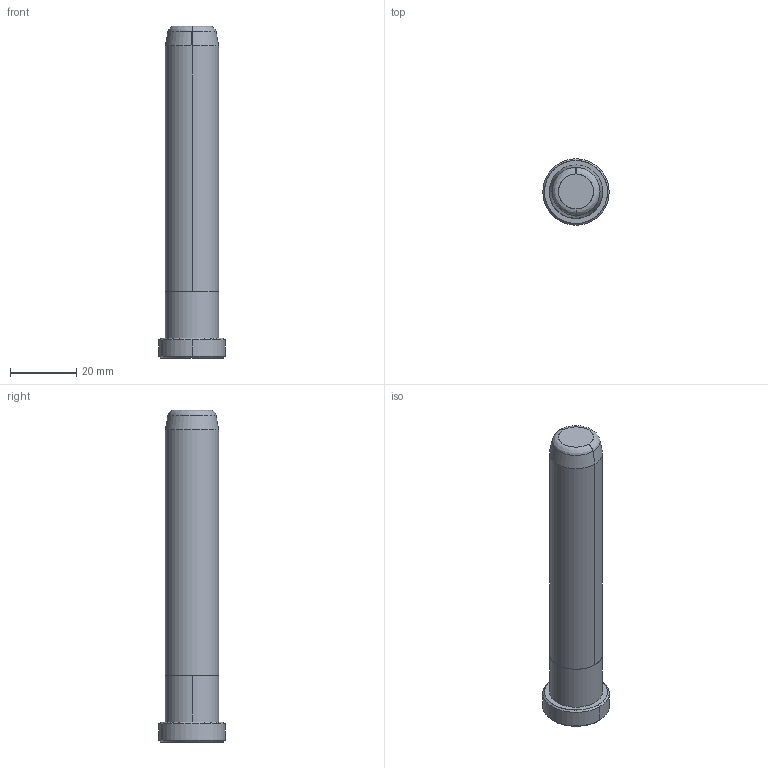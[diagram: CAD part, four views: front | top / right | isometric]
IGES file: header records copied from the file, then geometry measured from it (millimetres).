
Start section: START RECORD GO HERE.
Global section: file name: B85816100.igs; native system: DASSAULT SYSTEMES CATIA V5 R20 - www.3ds.com; preprocessor: CATIA Version 5 Release 20 ; author: Utente; organization: NB04-ASUS; date: 20200419.205054; units: millimetre
Bounding box: 20 x 20 x 100 mm (x, y, z)
Surface area: 5602.5 mm2 (no closed solid volume)
Topology: 0 solids, 0 shells, 20 faces, 80 edges, 80 vertices
Faces by surface type: revolution 16, plane 4
